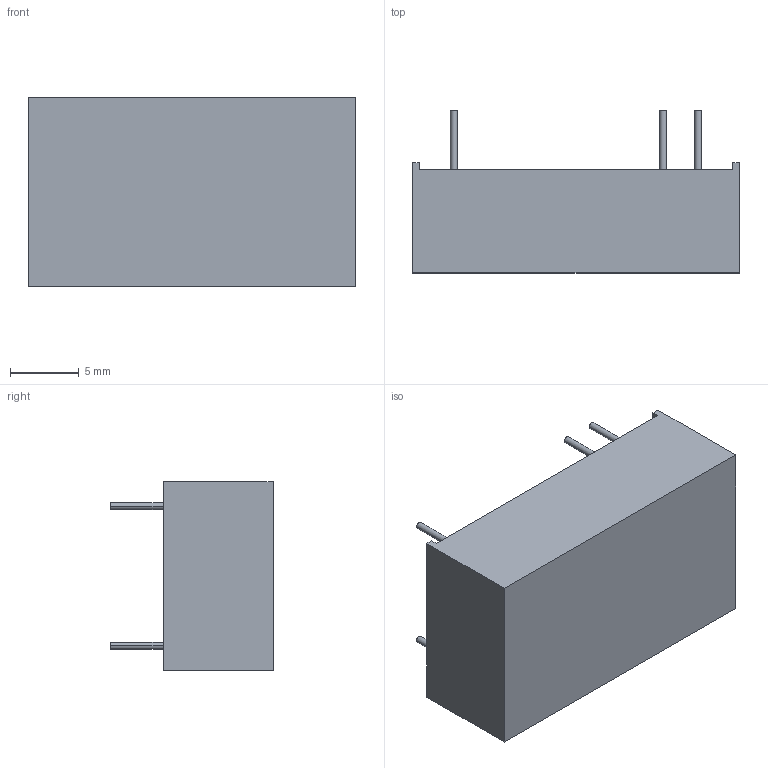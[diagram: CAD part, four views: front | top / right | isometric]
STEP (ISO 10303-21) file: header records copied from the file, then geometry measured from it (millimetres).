
FILE_DESCRIPTION (( 'STEP AP214' ), '1' );
FILE_NAME ('MDW1000_20240216.STEP', '2024-02-16T09:52:35', ( '' ), ( '' ), 'SwSTEP 2.0', 'SolidWorks 2021', '' );
FILE_SCHEMA (( 'AUTOMOTIVE_DESIGN' ));
Length unit declared in the file: millimetre
Products named in the file (1): MDW1000_20240216
Bounding box: 23.8 x 11.8 x 13.7 mm (x, y, z)
Volume: 2457.4 mm3; surface area: 1283.5 mm2
Topology: 1 solids, 1 shells, 28 faces, 60 edges, 40 vertices
Faces by surface type: plane 16, cylinder 12
Entity records: 802 total; most frequent: DIRECTION 142, CARTESIAN_POINT 129, ORIENTED_EDGE 120, EDGE_CURVE 60, AXIS2_PLACEMENT_3D 53, VERTEX_POINT 40, LINE 36, VECTOR 36
